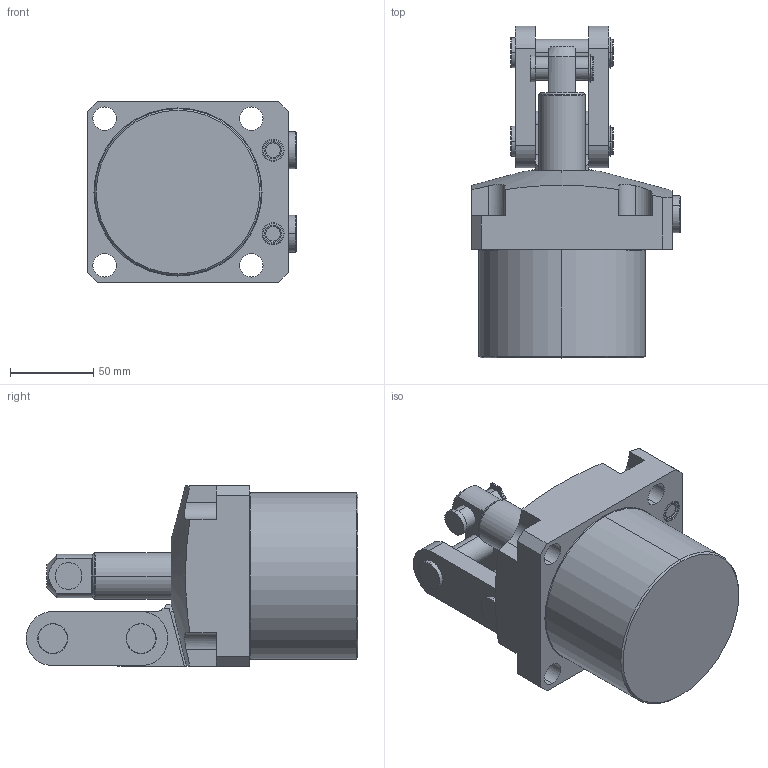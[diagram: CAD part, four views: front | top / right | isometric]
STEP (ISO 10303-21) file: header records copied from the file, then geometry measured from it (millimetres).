
FILE_DESCRIPTION(/* description */ (''),/* implementation_level */ '2;1');
FILE_NAME(/* name */ 'TPC25-R.stp',/* time_stamp */ '2025-01-05T10:24:07+08:00',/* author */ (''),/* organization */ (''),/* preprocessor_version */ 'ST-DEVELOPER v16.7',/* originating_system */ 'SIEMENS PLM Software NX 12.0',/* authorisation */ '');
FILE_SCHEMA (('AUTOMOTIVE_DESIGN { 1 0 10303 214 3 1 1 1 }'));
Length unit declared in the file: millimetre
Products named in the file (5): TPC25-R-01; TPC25-R-02; TPC25-R-04; TPC25-R-03; TPC25-R_stp
Assembly tree (5 placements, depth 2):
  TPC25-R_stp
    TPC25-R-03
    TPC25-R-04  x2
    TPC25-R-02
    TPC25-R-01
Bounding box: 124.8 x 199 x 108 mm (x, y, z)
Volume: 1130207.5 mm3; surface area: 108579.2 mm2
Topology: 5 solids, 7 shells, 287 faces, 680 edges, 432 vertices
Faces by surface type: cylinder 119, plane 114, torus 34, cone 20
Entity records: 8035 total; most frequent: CARTESIAN_POINT 1531, DIRECTION 1430, ORIENTED_EDGE 1268, EDGE_CURVE 634, AXIS2_PLACEMENT_3D 568, VERTEX_POINT 404, EDGE_LOOP 308, CIRCLE 297
